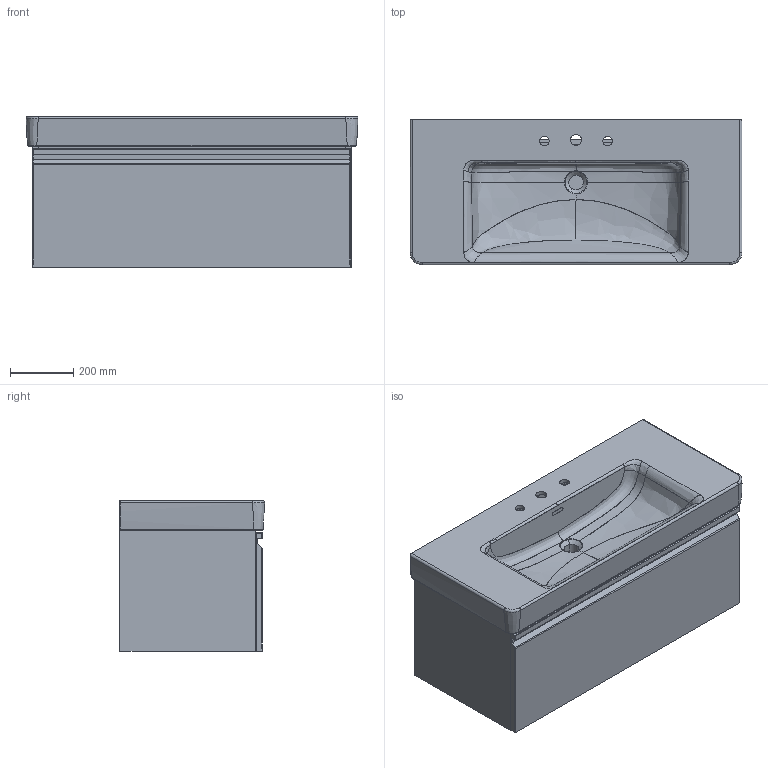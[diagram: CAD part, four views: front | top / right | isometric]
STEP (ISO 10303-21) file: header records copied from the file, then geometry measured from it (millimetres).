
FILE_DESCRIPTION(/* description */ (''),/* implementation_level */ '2;1');
FILE_NAME(/* name */ 'C:\Users\User33\Desktop\Pro S\3D01_483552.stp',/* time_stamp */ '2018-05-10T13:09:43+02:00',/* author */ ('User33'),/* organization */ (''),/* preprocessor_version */ 'ST-DEVELOPER v16.13',/* originating_system */ 'Autodesk Inventor 2018',/* authorisation */ '');
FILE_SCHEMA (('AUTOMOTIVE_DESIGN { 1 0 10303 214 3 1 1 }'));
Products named in the file (28): Assieme2; Parte72; Parte74; Parte76; Parte86; Parte88; Parte90; Parte92; Parte94; Parte96; Parte98; Parte100; Parte102; Parte104; Parte106; Parte108; Parte110; Parte112; Parte122; Parte124; Parte126; Parte128; Parte130; Parte132; Parte134; Parte136; Parte138; Parte140
Assembly tree (27 placements, depth 2):
  Assieme2
    Parte72
    Parte74
    Parte76
    Parte86
    Parte88
    Parte90
    Parte92
    Parte94
    Parte96
    Parte98
    Parte100
    Parte102
    Parte104
    Parte106
    Parte108
    Parte110
    Parte112
    Parte122
    Parte124
    Parte126
    Parte128
    Parte130
    Parte132
    Parte134
    Parte136
    Parte138
    Parte140
Bounding box: 1050.77 x 460.34 x 478 mm (x, y, z)
Volume: 38148330.8 mm3; surface area: 6792107.1 mm2
Topology: 26 solids, 595 shells, 1376 faces, 4784 edges, 4063 vertices
Faces by surface type: plane 671, cylinder 338, bspline 256, torus 63, sphere 28, cone 20
Full cylindrical faces by diameter (mm): 2.5 x2, 4 x16, 4.1 x4, 5.1 x4, 6 x12, 7.2 x2, 10 x2, 12 x2, 12.5 x2
Entity records: 126697 total; most frequent: CARTESIAN_POINT 84962, DIRECTION 7680, ORIENTED_EDGE 6800, EDGE_CURVE 4729, VERTEX_POINT 4062, AXIS2_PLACEMENT_3D 2680, LINE 2320, VECTOR 2320
